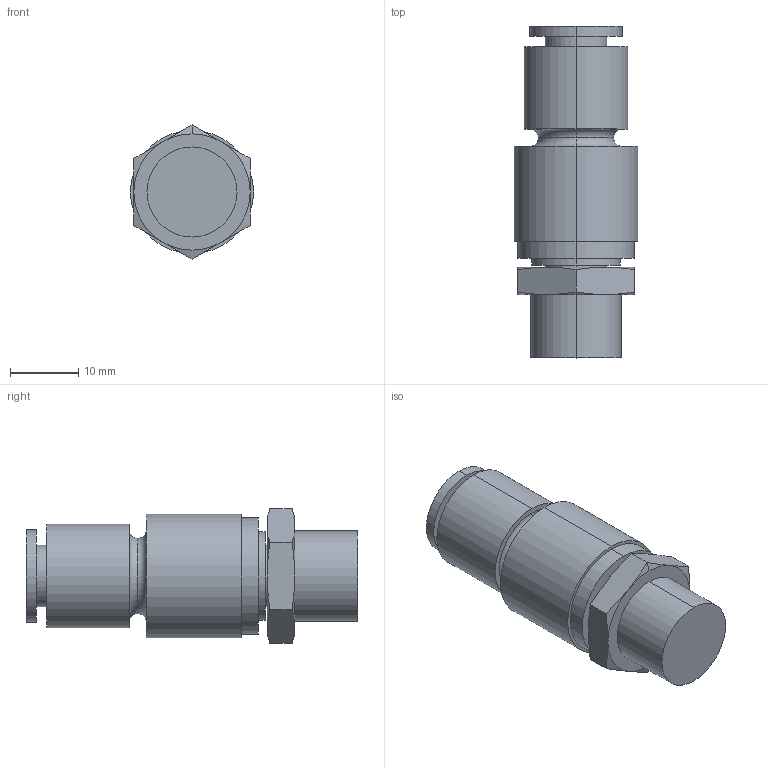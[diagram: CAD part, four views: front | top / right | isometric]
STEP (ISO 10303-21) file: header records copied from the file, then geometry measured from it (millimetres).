
FILE_DESCRIPTION (( 'STEP AP203' ), '1' );
FILE_NAME ('FKXH08-02.STEP', '2022-04-18T15:17:24', ( '' ), ( '' ), 'SwSTEP 2.0', 'SolidWorks 2019', '' );
FILE_SCHEMA (( 'CONFIG_CONTROL_DESIGN' ));
Length unit declared in the file: millimetre
Products named in the file (1): FKXH08-02
Bounding box: 18 x 48.5 x 19.63 mm (x, y, z)
Volume: 8338.9 mm3; surface area: 3985.4 mm2
Topology: 1 solids, 1 shells, 54 faces, 110 edges, 68 vertices
Faces by surface type: cylinder 18, plane 18, cone 14, torus 4
Entity records: 1755 total; most frequent: CARTESIAN_POINT 533, DIRECTION 256, ORIENTED_EDGE 220, AXIS2_PLACEMENT_3D 115, EDGE_CURVE 110, VERTEX_POINT 68, EDGE_LOOP 64, CIRCLE 60
